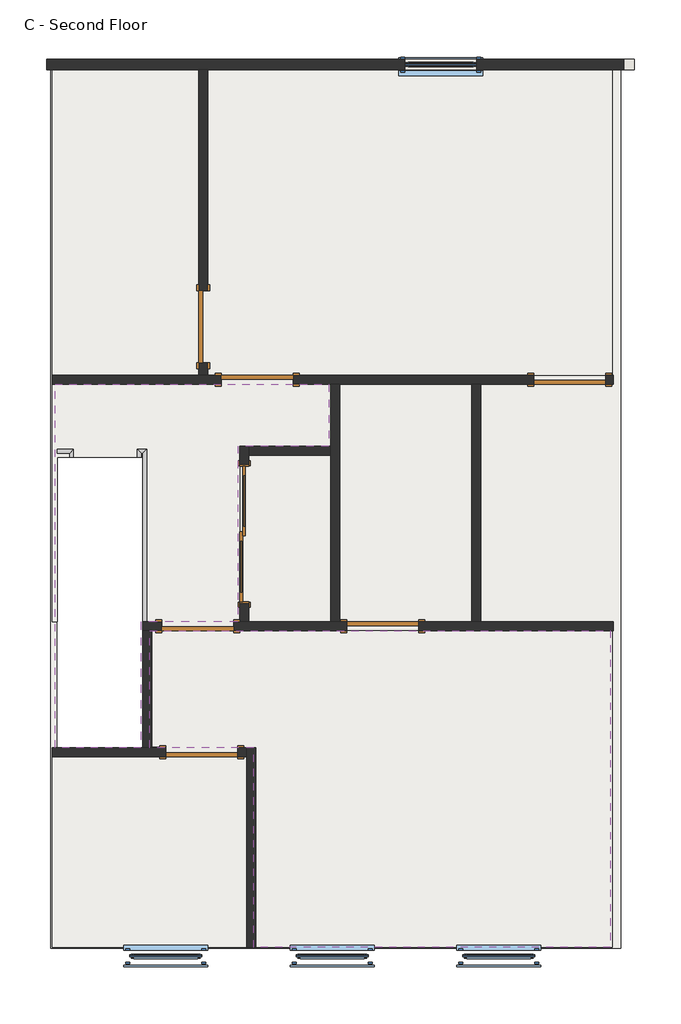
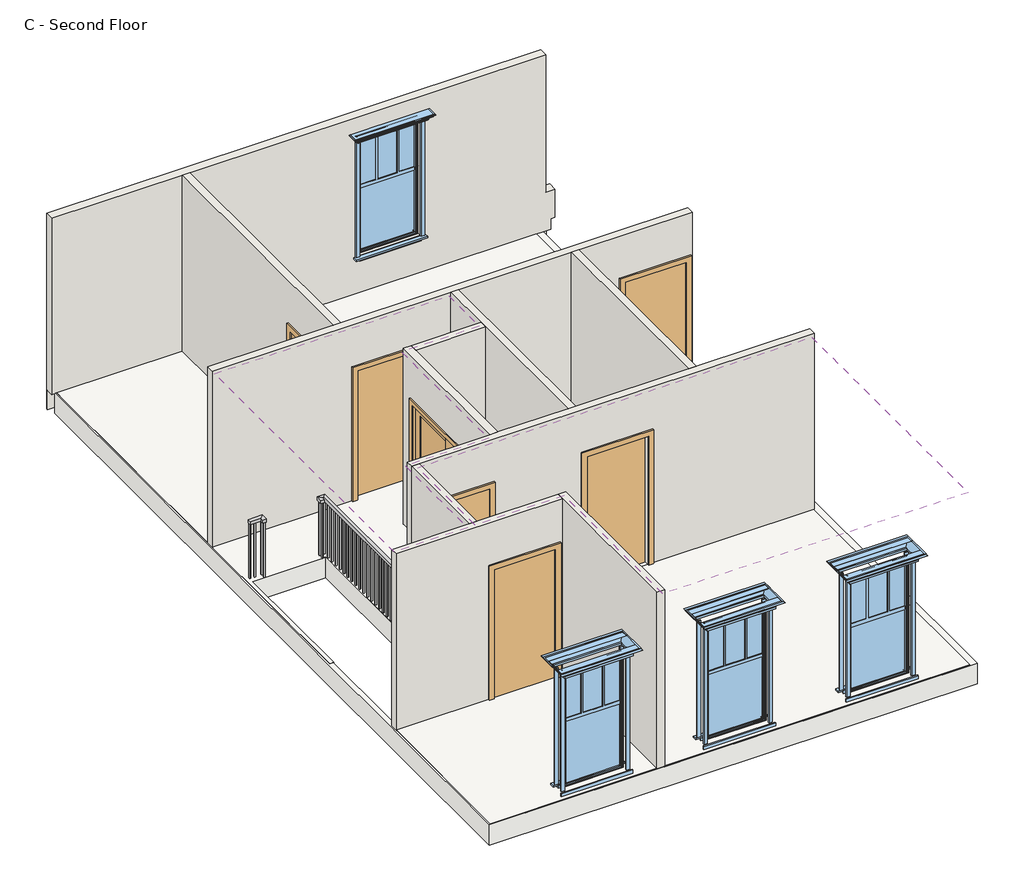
# One storey: 11 walls, 7 doors, 4 windows, 2 coverings, 2 railings, 2 slabs.
"""IFC4 building model written with IfcOpenShell, lengths in millimetres."""

from ifc_helpers import new_model, si_unit, frame, origin, place, context, project, spatial, polyline, outline, extrude, faceted_brep, transform, mapped, element, save
from components import door_2e073e5e, door_5e62189b, door_17d80c48, craftsman_style_single_window_l_craftsman_style_single_78b914de, craftsman_style_single_window_l_craftsman_style_single_4874115d

model = new_model("IFC4")

# Units and contexts
model_context = context("Model", 3, world=origin())
ifc_project = project(units=[si_unit("LENGTHUNIT", "METRE", prefix="MILLI")], contexts=[model_context])

# Site, building, storey
site = spatial("IfcSite", under=ifc_project)
building = spatial("IfcBuilding", under=site)
storey = spatial("IfcBuildingStorey", under=building, Name="C - Second Floor", Elevation=4591.05)

# Coverings
placement = place(None, origin())
element("IfcCovering", 1, ObjectType="GWB on Furring", at=placement, inside=storey, context=model_context, shape_type="SweptSolid", body=[
    extrude(outline(polyline([(10428.7620514, -3096.8539462), (10428.7620514, -7122.7539462), (5891.6870514, -7122.7539462), (5891.6870514, -4582.7539462), (4570.8870514, -4582.7539462), (4570.8870514, -3096.8539462), (10428.7620514, -3096.8539462)])), frame((0.0, 0.0, 7308.85), z_axis=(0.0, 0.0, 1.0), x_axis=(1.0, 0.0, 0.0)), (0.0, 0.0, 1.0), 31.75),
])
element("IfcCovering", 2, ObjectType="GWB on Furring", at=placement, inside=storey, context=model_context, shape_type="SweptSolid", body=[
    extrude(outline(polyline([(3364.3870514, -4582.7539462), (3364.3870514, 40.0460538), (6847.3620514, 40.0460538), (6847.3620514, -747.3539462), (5691.6620514, -747.3539462), (5691.6620514, -2982.5539462), (4456.5870514, -2982.5539462), (4456.5870514, -4582.7539462), (3364.3870514, -4582.7539462)])), frame((0.0, 0.0, 7308.85), z_axis=(0.0, 0.0, 1.0), x_axis=(1.0, 0.0, 0.0)), (0.0, 0.0, 1.0), 31.75),
])

# Doors
door_shape = door_2e073e5e(model_context)
element("IfcDoor", 3, ObjectType="Door-Interior-Double-Sliding-2_Panel-Wood : 68\" x 80\"", at=placement, inside=storey, context=model_context, shape_type="MappedRepresentation", body=[
    mapped(door_shape, transform((5771.0370514, -1864.9539462, 4591.05), x_axis=(0.0, 1.0, 0.0), y_axis=(-1.0, 0.0, 0.0), z_axis=(0.0, 0.0, 1.0))),
])
door_2_shape = door_5e62189b(model_context)
element("IfcDoor", 4, ObjectType="Single-Flush : 36\" x 80\"", at=placement, inside=storey, context=model_context, shape_type="MappedRepresentation", body=[
    mapped(door_2_shape, transform((5231.2870514, -4639.9039462, 4591.05), x_axis=(1.0, 0.0, 0.0), y_axis=(0.0, 1.0, 0.0), z_axis=(0.0, 0.0, 1.0))),
])
element("IfcDoor", 5, ObjectType="Single-Flush : 36\" x 80\"", at=placement, inside=storey, context=model_context, shape_type="MappedRepresentation", body=[
    mapped(door_2_shape, transform((5937.7245514, 97.1960538, 4591.05), x_axis=(-1.0, 0.0, 0.0), y_axis=(0.0, -1.0, 0.0), z_axis=(0.0, 0.0, 1.0))),
])
element("IfcDoor", 6, ObjectType="Single-Flush : 36\" x 80\"", at=placement, inside=storey, context=model_context, shape_type="MappedRepresentation", body=[
    mapped(door_2_shape, transform((5250.3370514, 770.2960538, 4591.05), x_axis=(0.0, -1.0, 0.0), y_axis=(1.0, 0.0, 0.0), z_axis=(0.0, 0.0, 1.0))),
])
element("IfcDoor", 7, ObjectType="Single-Flush : 36\" x 80\"", at=placement, inside=storey, context=model_context, shape_type="MappedRepresentation", body=[
    mapped(door_2_shape, transform((7533.1620514, -3039.7039462, 4591.05), x_axis=(-1.0, 0.0, 0.0), y_axis=(0.0, -1.0, 0.0), z_axis=(0.0, 0.0, 1.0))),
])
element("IfcDoor", 8, ObjectType="Single-Flush : 36\" x 80\"", at=placement, inside=storey, context=model_context, shape_type="MappedRepresentation", body=[
    mapped(door_2_shape, transform((9911.2370514, 97.1960538, 4591.05), x_axis=(1.0, 0.0, 0.0), y_axis=(0.0, 1.0, 0.0), z_axis=(0.0, 0.0, 1.0))),
])
door_3_shape = door_17d80c48(model_context)
element("IfcDoor", 9, ObjectType="Single-Flush : 36\" x 80\"", at=placement, inside=storey, context=model_context, shape_type="MappedRepresentation", body=[
    mapped(door_3_shape, transform((5180.4870514, -3039.7039462, 4591.05), x_axis=(-1.0, 0.0, 0.0), y_axis=(0.0, -1.0, 0.0), z_axis=(0.0, 0.0, 1.0))),
])

# Railings
element("IfcRailing", 10, ObjectType="Handrail - Rectangular", at=placement, inside=storey, context=model_context, shape_type="SolidModel", body=[
    faceted_brep([(3389.7870514, -836.2539462, 5505.45), (3389.7870514, -785.4539462, 5505.45), (3389.7870514, -785.4539462, 5454.65), (3389.7870514, -836.2539462, 5454.65), (3548.5370514, -836.2539462, 5454.65), (3548.5370514, -836.2539462, 5505.45), (3599.3370514, -785.4539462, 5454.65), (3599.3370514, -785.4539462, 5505.45), (3548.5370514, -887.0539462, 5505.45), (3548.5370514, -887.0539462, 5454.65), (3599.3370514, -887.0539462, 5454.65), (3599.3370514, -887.0539462, 5505.45)], [[[0, 1, 2, 3]], [[4, 5, 0, 3]], [[6, 4, 3, 2]], [[7, 6, 2, 1]], [[5, 7, 1, 0]], [[8, 9, 10, 11]], [[9, 8, 5, 4]], [[10, 9, 4, 6]], [[11, 10, 6, 7]], [[8, 11, 7, 5]]]),
    extrude(outline(polyline([(3481.8620514, -801.3289462), (3481.8620514, -820.3789462), (3462.8120514, -820.3789462), (3462.8120514, -801.3289462), (3481.8620514, -801.3289462)])), frame((0.0, 0.0, 4591.05), z_axis=(0.0, 0.0, 1.0), x_axis=(1.0, 0.0, 0.0)), (0.0, 0.0, 1.0), 863.6),
    extrude(outline(polyline([(3583.4620514, -820.3789462), (3564.4120514, -820.3789462), (3564.4120514, -801.3289462), (3583.4620514, -801.3289462), (3583.4620514, -820.3789462)])), frame((0.0, 0.0, 4591.05), z_axis=(0.0, 0.0, 1.0), x_axis=(1.0, 0.0, 0.0)), (0.0, 0.0, 1.0), 863.6),
    extrude(outline(polyline([(3408.8370514, -801.3289462), (3408.8370514, -820.3789462), (3389.7870514, -820.3789462), (3389.7870514, -801.3289462), (3408.8370514, -801.3289462)])), frame((0.0, 0.0, 4591.05), z_axis=(0.0, 0.0, 1.0), x_axis=(1.0, 0.0, 0.0)), (0.0, 0.0, 1.0), 863.6),
    extrude(outline(polyline([(3583.4620514, -887.0539462), (3564.4120514, -887.0539462), (3564.4120514, -868.0039462), (3583.4620514, -868.0039462), (3583.4620514, -887.0539462)])), frame((0.0, 0.0, 4591.05), z_axis=(0.0, 0.0, 1.0), x_axis=(1.0, 0.0, 0.0)), (0.0, 0.0, 1.0), 863.6),
])
element("IfcRailing", 11, ObjectType="Handrail - Rectangular", at=placement, inside=storey, context=model_context, shape_type="SolidModel", body=[
    faceted_brep([(4412.1370514, -887.0539462, 5505.45), (4412.1370514, -887.0539462, 5454.65), (4462.9370514, -887.0539462, 5454.65), (4462.9370514, -887.0539462, 5505.45), (4412.1370514, -785.4539462, 5505.45), (4412.1370514, -785.4539462, 5454.65), (4462.9370514, -836.2539462, 5454.65), (4462.9370514, -836.2539462, 5505.45), (4530.3368362, -2982.5539462, 5505.45), (4479.5368362, -2982.5539462, 5505.45), (4479.5368362, -2982.5539462, 5454.65), (4530.3368362, -2982.5539462, 5454.65), (4530.3368362, -785.4539462, 5454.65), (4530.3368362, -785.4539462, 5505.45), (4479.5368362, -836.2539462, 5454.65), (4479.5368362, -836.2539462, 5505.45)], [[[0, 1, 2, 3]], [[1, 0, 4, 5]], [[2, 1, 5, 6]], [[3, 2, 6, 7]], [[0, 3, 7, 4]], [[8, 9, 10, 11]], [[12, 13, 8, 11]], [[14, 12, 11, 10]], [[15, 14, 10, 9]], [[13, 15, 9, 8]], [[5, 4, 13, 12]], [[6, 5, 12, 14]], [[7, 6, 14, 15]], [[4, 7, 15, 13]]]),
    extrude(outline(polyline([(4495.4118362, -2934.9289462), (4514.4618362, -2934.9289462), (4514.4618362, -2953.9789462), (4495.4118362, -2953.9789462), (4495.4118362, -2934.9289462)])), frame((0.0, 0.0, 4591.05), z_axis=(0.0, 0.0, 1.0), x_axis=(1.0, 0.0, 0.0)), (0.0, 0.0, 1.0), 863.6),
    extrude(outline(polyline([(4495.4118362, -2833.3289462), (4514.4618362, -2833.3289462), (4514.4618362, -2852.3789462), (4495.4118362, -2852.3789462), (4495.4118362, -2833.3289462)])), frame((0.0, 0.0, 4591.05), z_axis=(0.0, 0.0, 1.0), x_axis=(1.0, 0.0, 0.0)), (0.0, 0.0, 1.0), 863.6),
    extrude(outline(polyline([(4495.4118362, -2731.7289462), (4514.4618362, -2731.7289462), (4514.4618362, -2750.7789462), (4495.4118362, -2750.7789462), (4495.4118362, -2731.7289462)])), frame((0.0, 0.0, 4591.05), z_axis=(0.0, 0.0, 1.0), x_axis=(1.0, 0.0, 0.0)), (0.0, 0.0, 1.0), 863.6),
    extrude(outline(polyline([(4495.4118362, -2630.1289462), (4514.4618362, -2630.1289462), (4514.4618362, -2649.1789462), (4495.4118362, -2649.1789462), (4495.4118362, -2630.1289462)])), frame((0.0, 0.0, 4591.05), z_axis=(0.0, 0.0, 1.0), x_axis=(1.0, 0.0, 0.0)), (0.0, 0.0, 1.0), 863.6),
    extrude(outline(polyline([(4495.4118362, -2528.5289462), (4514.4618362, -2528.5289462), (4514.4618362, -2547.5789462), (4495.4118362, -2547.5789462), (4495.4118362, -2528.5289462)])), frame((0.0, 0.0, 4591.05), z_axis=(0.0, 0.0, 1.0), x_axis=(1.0, 0.0, 0.0)), (0.0, 0.0, 1.0), 863.6),
    extrude(outline(polyline([(4495.4118362, -2426.9289462), (4514.4618362, -2426.9289462), (4514.4618362, -2445.9789462), (4495.4118362, -2445.9789462), (4495.4118362, -2426.9289462)])), frame((0.0, 0.0, 4591.05), z_axis=(0.0, 0.0, 1.0), x_axis=(1.0, 0.0, 0.0)), (0.0, 0.0, 1.0), 863.6),
    extrude(outline(polyline([(4495.4118362, -2325.3289462), (4514.4618362, -2325.3289462), (4514.4618362, -2344.3789462), (4495.4118362, -2344.3789462), (4495.4118362, -2325.3289462)])), frame((0.0, 0.0, 4591.05), z_axis=(0.0, 0.0, 1.0), x_axis=(1.0, 0.0, 0.0)), (0.0, 0.0, 1.0), 863.6),
    extrude(outline(polyline([(4495.4118362, -2223.7289462), (4514.4618362, -2223.7289462), (4514.4618362, -2242.7789462), (4495.4118362, -2242.7789462), (4495.4118362, -2223.7289462)])), frame((0.0, 0.0, 4591.05), z_axis=(0.0, 0.0, 1.0), x_axis=(1.0, 0.0, 0.0)), (0.0, 0.0, 1.0), 863.6),
    extrude(outline(polyline([(4495.4118362, -2122.1289462), (4514.4618362, -2122.1289462), (4514.4618362, -2141.1789462), (4495.4118362, -2141.1789462), (4495.4118362, -2122.1289462)])), frame((0.0, 0.0, 4591.05), z_axis=(0.0, 0.0, 1.0), x_axis=(1.0, 0.0, 0.0)), (0.0, 0.0, 1.0), 863.6),
    extrude(outline(polyline([(4495.4118362, -2020.5289462), (4514.4618362, -2020.5289462), (4514.4618362, -2039.5789462), (4495.4118362, -2039.5789462), (4495.4118362, -2020.5289462)])), frame((0.0, 0.0, 4591.05), z_axis=(0.0, 0.0, 1.0), x_axis=(1.0, 0.0, 0.0)), (0.0, 0.0, 1.0), 863.6),
    extrude(outline(polyline([(4495.4118362, -1918.9289462), (4514.4618362, -1918.9289462), (4514.4618362, -1937.9789462), (4495.4118362, -1937.9789462), (4495.4118362, -1918.9289462)])), frame((0.0, 0.0, 4591.05), z_axis=(0.0, 0.0, 1.0), x_axis=(1.0, 0.0, 0.0)), (0.0, 0.0, 1.0), 863.6),
    extrude(outline(polyline([(4495.4118362, -1817.3289462), (4514.4618362, -1817.3289462), (4514.4618362, -1836.3789462), (4495.4118362, -1836.3789462), (4495.4118362, -1817.3289462)])), frame((0.0, 0.0, 4591.05), z_axis=(0.0, 0.0, 1.0), x_axis=(1.0, 0.0, 0.0)), (0.0, 0.0, 1.0), 863.6),
    extrude(outline(polyline([(4495.4118362, -1715.7289462), (4514.4618362, -1715.7289462), (4514.4618362, -1734.7789462), (4495.4118362, -1734.7789462), (4495.4118362, -1715.7289462)])), frame((0.0, 0.0, 4591.05), z_axis=(0.0, 0.0, 1.0), x_axis=(1.0, 0.0, 0.0)), (0.0, 0.0, 1.0), 863.6),
    extrude(outline(polyline([(4495.4118362, -1614.1289462), (4514.4618362, -1614.1289462), (4514.4618362, -1633.1789462), (4495.4118362, -1633.1789462), (4495.4118362, -1614.1289462)])), frame((0.0, 0.0, 4591.05), z_axis=(0.0, 0.0, 1.0), x_axis=(1.0, 0.0, 0.0)), (0.0, 0.0, 1.0), 863.6),
    extrude(outline(polyline([(4495.4118362, -1512.5289462), (4514.4618362, -1512.5289462), (4514.4618362, -1531.5789462), (4495.4118362, -1531.5789462), (4495.4118362, -1512.5289462)])), frame((0.0, 0.0, 4591.05), z_axis=(0.0, 0.0, 1.0), x_axis=(1.0, 0.0, 0.0)), (0.0, 0.0, 1.0), 863.6),
    extrude(outline(polyline([(4495.4118362, -1410.9289462), (4514.4618362, -1410.9289462), (4514.4618362, -1429.9789462), (4495.4118362, -1429.9789462), (4495.4118362, -1410.9289462)])), frame((0.0, 0.0, 4591.05), z_axis=(0.0, 0.0, 1.0), x_axis=(1.0, 0.0, 0.0)), (0.0, 0.0, 1.0), 863.6),
    extrude(outline(polyline([(4495.4118362, -1309.3289462), (4514.4618362, -1309.3289462), (4514.4618362, -1328.3789462), (4495.4118362, -1328.3789462), (4495.4118362, -1309.3289462)])), frame((0.0, 0.0, 4591.05), z_axis=(0.0, 0.0, 1.0), x_axis=(1.0, 0.0, 0.0)), (0.0, 0.0, 1.0), 863.6),
    extrude(outline(polyline([(4495.4118362, -1207.7289462), (4514.4618362, -1207.7289462), (4514.4618362, -1226.7789462), (4495.4118362, -1226.7789462), (4495.4118362, -1207.7289462)])), frame((0.0, 0.0, 4591.05), z_axis=(0.0, 0.0, 1.0), x_axis=(1.0, 0.0, 0.0)), (0.0, 0.0, 1.0), 863.6),
    extrude(outline(polyline([(4495.4118362, -1106.1289462), (4514.4618362, -1106.1289462), (4514.4618362, -1125.1789462), (4495.4118362, -1125.1789462), (4495.4118362, -1106.1289462)])), frame((0.0, 0.0, 4591.05), z_axis=(0.0, 0.0, 1.0), x_axis=(1.0, 0.0, 0.0)), (0.0, 0.0, 1.0), 863.6),
    extrude(outline(polyline([(4495.4118362, -1004.5289462), (4514.4618362, -1004.5289462), (4514.4618362, -1023.5789462), (4495.4118362, -1023.5789462), (4495.4118362, -1004.5289462)])), frame((0.0, 0.0, 4591.05), z_axis=(0.0, 0.0, 1.0), x_axis=(1.0, 0.0, 0.0)), (0.0, 0.0, 1.0), 863.6),
    extrude(outline(polyline([(4495.4118362, -902.9289462), (4514.4618362, -902.9289462), (4514.4618362, -921.9789462), (4495.4118362, -921.9789462), (4495.4118362, -902.9289462)])), frame((0.0, 0.0, 4591.05), z_axis=(0.0, 0.0, 1.0), x_axis=(1.0, 0.0, 0.0)), (0.0, 0.0, 1.0), 863.6),
    extrude(outline(polyline([(4495.4118362, -820.3789462), (4495.4118362, -801.3289462), (4514.4618362, -801.3289462), (4514.4618362, -820.3789462), (4495.4118362, -820.3789462)])), frame((0.0, 0.0, 4591.05), z_axis=(0.0, 0.0, 1.0), x_axis=(1.0, 0.0, 0.0)), (0.0, 0.0, 1.0), 863.6),
    extrude(outline(polyline([(4447.0620514, -820.3789462), (4428.0120514, -820.3789462), (4428.0120514, -801.3289462), (4447.0620514, -801.3289462), (4447.0620514, -820.3789462)])), frame((0.0, 0.0, 4591.05), z_axis=(0.0, 0.0, 1.0), x_axis=(1.0, 0.0, 0.0)), (0.0, 0.0, 1.0), 863.6),
    extrude(outline(polyline([(4495.4118362, -2963.5039462), (4514.4618362, -2963.5039462), (4514.4618362, -2982.5539462), (4495.4118362, -2982.5539462), (4495.4118362, -2963.5039462)])), frame((0.0, 0.0, 4591.05), z_axis=(0.0, 0.0, 1.0), x_axis=(1.0, 0.0, 0.0)), (0.0, 0.0, 1.0), 863.6),
    extrude(outline(polyline([(4447.0620514, -887.0539462), (4428.0120514, -887.0539462), (4428.0120514, -868.0039462), (4447.0620514, -868.0039462), (4447.0620514, -887.0539462)])), frame((0.0, 0.0, 4591.05), z_axis=(0.0, 0.0, 1.0), x_axis=(1.0, 0.0, 0.0)), (0.0, 0.0, 1.0), 863.6),
])

# Slabs
element("IfcSlab", 12, ObjectType="Wood Truss  Joist 12\"", at=placement, inside=storey, context=model_context, shape_type="SweptSolid", body=[
    extrude(outline(polyline([(3307.2370514, 4053.2460538), (10558.9370514, 4053.2460538), (10558.9370514, -7135.4539462), (3307.2370514, -7135.4539462), (3307.2370514, 4053.2460538)]), holes=[polyline([(3389.7870514, -4582.7539462), (4481.9870514, -4582.7539462), (4481.9870514, -887.0539462), (3389.7870514, -887.0539462), (3389.7870514, -4582.7539462)])]), frame((0.0, 0.0, 4270.375), z_axis=(0.0, 0.0, 1.0), x_axis=(1.0, 0.0, 0.0)), (0.0, 0.0, 1.0), 320.675),
])
element("IfcSlab", 13, ObjectType="Carpet Finish - 1/8\"", at=placement, inside=storey, context=model_context, shape_type="SweptSolid", body=[
    extrude(outline(polyline([(3329.4620514, -4697.0539462), (4772.3955954, -4697.0539462), (4772.3955954, -4570.0539462), (4596.2870514, -4570.0539462), (4596.2870514, -3096.8539462), (4723.2870514, -3096.8539462), (4723.2870514, -2982.5539462), (4481.9870514, -2982.5539462), (4481.9870514, -887.0539462), (3389.7870514, -887.0539462), (3389.7870514, -2982.5539462), (3329.4620514, -2982.5539462), (3329.4620514, 40.0460538), (5480.5245514, 40.0460538), (5480.5245514, 154.3460538), (5307.4870514, 154.3460538), (5307.4870514, 313.0960538), (5193.1870514, 313.0960538), (5193.1870514, 154.3460538), (3329.4620514, 154.3460538), (3329.4620514, 4040.5460538), (5193.1870514, 4040.5460538), (5193.1870514, 1229.1875098), (5307.4870514, 1229.1875098), (5307.4870514, 4040.5460538), (10454.1620514, 4040.5460538), (10454.1620514, 154.3460538), (10368.4370514, 154.3460538), (9454.0370514, 154.3460538), (6394.9245514, 154.3460538), (6394.9245514, 40.0460538), (6872.7620514, 40.0460538), (6872.7620514, -747.3539462), (5717.0620514, -747.3539462), (5717.0620514, -2982.5539462), (5637.6870514, -2982.5539462), (5637.6870514, -3096.8539462), (6771.1620514, -3096.8539462), (7685.5620514, -3096.8539462), (10454.1620514, -3096.8539462), (10454.1620514, -7122.7539462), (5917.0870514, -7122.7539462), (5917.0870514, -4582.7539462), (5688.4870514, -4582.7539462), (5688.4870514, -4697.0539462), (5802.7870514, -4697.0539462), (5802.7870514, -7122.7539462), (3329.4620514, -7122.7539462), (3329.4620514, -4697.0539462)])), frame((0.0, 0.0, 4591.05), z_axis=(0.0, 0.0, 1.0), x_axis=(1.0, 0.0, 0.0)), (0.0, 0.0, 1.0), 3.175),
])

# Walls
element("IfcWall", 14, ObjectType="Exterior - Wood Siding on Wood Stud", at=placement, inside=storey, context=model_context, shape_type="Brep", body=[
    faceted_brep([(10670.0620514, 4173.8960538, 4286.25), (3256.4370514, 4173.8960538, 4286.25), (3256.4370514, 4173.8960538, 4591.05), (3256.4370514, 4173.8960538, 6750.05), (3256.4370514, 4173.8960538, 7359.65), (10597.0370514, 4173.8960538, 7359.65), (10597.0370514, 4173.8960538, 5200.65), (10730.3870514, 4173.8960538, 5200.65), (10730.3870514, 4173.8960538, 4756.15), (10670.0620514, 4173.8960538, 4756.15), (8728.3277665, 4173.8960538, 7004.05), (7813.9277665, 4173.8960538, 7004.05), (7813.9277665, 4173.8960538, 5175.25), (8728.3277665, 4173.8960538, 5175.25), (10670.0620514, 4040.5460538, 4591.05), (10670.0620514, 4040.5460538, 4756.15), (10730.3870514, 4040.5460538, 4756.15), (10730.3870514, 4040.5460538, 5200.65), (10597.0370514, 4040.5460538, 5200.65), (10597.0370514, 4040.5460538, 7359.65), (5307.4870514, 4040.5460538, 7359.65), (5193.1870514, 4040.5460538, 7359.65), (3256.4370514, 4040.5460538, 7359.65), (3256.4370514, 4040.5460538, 6815.1375), (3256.4370514, 4040.5460538, 6750.05), (3256.4370514, 4040.5460538, 4591.05), (3329.4620514, 4040.5460538, 4591.05), (5193.1870514, 4040.5460538, 4591.05), (5307.4870514, 4040.5460538, 4591.05), (8728.3277665, 4040.5460538, 7004.05), (8728.3277665, 4040.5460538, 5175.25), (7813.9277665, 4040.5460538, 5175.25), (7813.9277665, 4040.5460538, 7004.05), (3256.4370514, 4154.8460538, 4286.25), (3256.4370514, 4154.8460538, 4591.05), (10597.0370514, 4154.8460538, 5200.65), (10670.0620514, 4154.8460538, 4591.05), (10670.0620514, 4154.8460538, 4286.25)], [[[0, 1, 2, 3, 4, 5, 6, 7, 8, 9], [10, 11, 12, 13]], [[14, 15, 16, 17, 18, 19, 20, 21, 22, 23, 24, 25, 26, 27, 28], [29, 30, 31, 32]], [[5, 4, 22, 21, 20, 19]], [[1, 33, 34, 25, 24, 23, 22, 4, 3, 2]], [[8, 16, 15, 9]], [[6, 35, 18, 17, 7]], [[0, 9, 15, 14, 36, 37]], [[36, 14, 28, 27, 26, 25, 34]], [[33, 37, 36, 34]], [[1, 0, 37, 33]], [[5, 19, 18, 35, 6]], [[8, 7, 17, 16]], [[30, 29, 10, 13]], [[31, 30, 13, 12]], [[32, 31, 12, 11]], [[29, 32, 11, 10]]]),
])
element("IfcWall", 15, ObjectType="Interior - 4 1/2\" Partition", at=placement, inside=storey, context=model_context, shape_type="Brep", body=[
    faceted_brep([(5637.6870514, -3096.8539462, 4591.05), (7075.9620514, -3096.8539462, 4591.05), (7075.9620514, -3096.8539462, 6623.05), (7990.3620514, -3096.8539462, 6623.05), (7990.3620514, -3096.8539462, 4591.05), (10463.6870514, -3096.8539462, 4591.05), (10463.6870514, -3096.8539462, 7359.65), (4596.2870514, -3096.8539462, 7359.65), (4481.9870514, -3096.8539462, 7359.65), (4481.9870514, -3096.8539462, 4591.05), (4596.2870514, -3096.8539462, 4591.05), (4723.2870514, -3096.8539462, 4591.05), (4723.2870514, -3096.8539462, 6623.05), (5637.6870514, -3096.8539462, 6623.05), (7075.9620514, -2982.5539462, 6623.05), (7075.9620514, -2982.5539462, 4591.05), (6987.0620514, -2982.5539462, 4591.05), (6872.7620514, -2982.5539462, 4591.05), (5831.3620514, -2982.5539462, 4591.05), (5717.0620514, -2982.5539462, 4591.05), (5637.6870514, -2982.5539462, 4591.05), (5637.6870514, -2982.5539462, 6623.05), (4723.2870514, -2982.5539462, 6623.05), (4723.2870514, -2982.5539462, 4591.05), (4481.9870514, -2982.5539462, 4591.05), (4481.9870514, -2982.5539462, 7359.65), (5717.0620514, -2982.5539462, 7359.65), (5831.3620514, -2982.5539462, 7359.65), (6872.7620514, -2982.5539462, 7359.65), (6987.0620514, -2982.5539462, 7359.65), (8663.4620514, -2982.5539462, 7359.65), (8777.7620514, -2982.5539462, 7359.65), (10463.6870514, -2982.5539462, 7359.65), (10463.6870514, -2982.5539462, 4591.05), (8777.7620514, -2982.5539462, 4591.05), (8663.4620514, -2982.5539462, 4591.05), (7990.3620514, -2982.5539462, 4591.05), (7990.3620514, -2982.5539462, 6623.05)], [[[0, 1, 2, 3, 4, 5, 6, 7, 8, 9, 10, 11, 12, 13]], [[14, 15, 16, 17, 18, 19, 20, 21, 22, 23, 24, 25, 26, 27, 28, 29, 30, 31, 32, 33, 34, 35, 36, 37]], [[24, 23, 11, 10, 9]], [[36, 35, 34, 33, 5, 4]], [[20, 19, 18, 17, 16, 15, 1, 0]], [[8, 7, 6, 32, 31, 30, 29, 28, 27, 26, 25]], [[12, 11, 23, 22]], [[13, 12, 22, 21]], [[0, 13, 21, 20]], [[2, 1, 15, 14]], [[3, 2, 14, 37]], [[4, 3, 37, 36]], [[9, 8, 25, 24]], [[6, 5, 33, 32]]]),
])
element("IfcWall", 16, ObjectType="Interior - 4 1/2\" Partition", at=placement, inside=storey, context=model_context, shape_type="Brep", body=[
    faceted_brep([(10463.6870514, 154.3460538, 4591.05), (10368.4370514, 154.3460538, 4591.05), (10368.4370514, 154.3460538, 6623.05), (9454.0370514, 154.3460538, 6623.05), (9454.0370514, 154.3460538, 4591.05), (6394.9245514, 154.3460538, 4591.05), (6394.9245514, 154.3460538, 6623.05), (5480.5245514, 154.3460538, 6623.05), (5480.5245514, 154.3460538, 4591.05), (5307.4870514, 154.3460538, 4591.05), (5193.1870514, 154.3460538, 4591.05), (3329.4620514, 154.3460538, 4591.05), (3329.4620514, 154.3460538, 7359.65), (5193.1870514, 154.3460538, 7359.65), (5307.4870514, 154.3460538, 7359.65), (10463.6870514, 154.3460538, 7359.65), (10368.4370514, 40.0460538, 6623.05), (10368.4370514, 40.0460538, 4591.05), (10463.6870514, 40.0460538, 4591.05), (10463.6870514, 40.0460538, 7359.65), (8777.7620514, 40.0460538, 7359.65), (8663.4620514, 40.0460538, 7359.65), (6987.0620514, 40.0460538, 7359.65), (6872.7620514, 40.0460538, 7359.65), (3329.4620514, 40.0460538, 7359.65), (3329.4620514, 40.0460538, 4591.05), (5480.5245514, 40.0460538, 4591.05), (5480.5245514, 40.0460538, 6623.05), (6394.9245514, 40.0460538, 6623.05), (6394.9245514, 40.0460538, 4591.05), (6872.7620514, 40.0460538, 4591.05), (6987.0620514, 40.0460538, 4591.05), (8663.4620514, 40.0460538, 4591.05), (8777.7620514, 40.0460538, 4591.05), (9454.0370514, 40.0460538, 4591.05), (9454.0370514, 40.0460538, 6623.05)], [[[0, 1, 2, 3, 4, 5, 6, 7, 8, 9, 10, 11, 12, 13, 14, 15]], [[16, 17, 18, 19, 20, 21, 22, 23, 24, 25, 26, 27, 28, 29, 30, 31, 32, 33, 34, 35]], [[11, 10, 9, 8, 26, 25]], [[18, 17, 1, 0]], [[34, 33, 32, 31, 30, 29, 5, 4]], [[15, 14, 13, 12, 24, 23, 22, 21, 20, 19]], [[27, 26, 8, 7]], [[28, 27, 7, 6]], [[29, 28, 6, 5]], [[2, 1, 17, 16]], [[3, 2, 16, 35]], [[4, 3, 35, 34]], [[12, 11, 25, 24]], [[0, 15, 19, 18]]]),
])
element("IfcWall", 17, ObjectType="Interior - 4 1/2\" Partition", at=placement, inside=storey, context=model_context, shape_type="SweptSolid", body=[
    extrude(outline(polyline([(313.0960538, 6623.05), (313.0960538, 4591.05), (154.3460538, 4591.05), (154.3460538, 7359.65), (4040.5460538, 7359.65), (4040.5460538, 4591.05), (1227.4960538, 4591.05), (1227.4960538, 6623.05), (313.0960538, 6623.05)])), frame((5193.1870514, 0.0, 0.0), z_axis=(1.0, 0.0, 0.0), x_axis=(0.0, 1.0, 0.0)), (0.0, 0.0, 1.0), 114.3),
])
element("IfcWall", 18, ObjectType="Interior - 4 1/2\" Partition", at=placement, inside=storey, context=model_context, shape_type="SweptSolid", body=[
    extrude(outline(polyline([(8663.4620514, -2982.5539462), (8663.4620514, 40.0460538), (8777.7620514, 40.0460538), (8777.7620514, -2982.5539462), (8663.4620514, -2982.5539462)])), frame((0.0, 0.0, 4591.05), z_axis=(0.0, 0.0, 1.0), x_axis=(1.0, 0.0, 0.0)), (0.0, 0.0, 1.0), 2768.6),
])
element("IfcWall", 19, ObjectType="Interior - 4 1/2\" Partition", at=placement, inside=storey, context=model_context, shape_type="Brep", body=[
    faceted_brep([(6872.7620514, 40.0460538, 4591.05), (6872.7620514, -747.3539462, 4591.05), (6872.7620514, -861.6539462, 4591.05), (6872.7620514, -2982.5539462, 4591.05), (6872.7620514, -2982.5539462, 7359.65), (6872.7620514, -861.6539462, 7359.65), (6872.7620514, -747.3539462, 7359.65), (6872.7620514, 40.0460538, 7359.65), (6987.0620514, 40.0460538, 4591.05), (6987.0620514, 40.0460538, 7359.65), (6987.0620514, -2982.5539462, 7359.65), (6987.0620514, -2982.5539462, 4591.05)], [[[0, 1, 2, 3, 4, 5, 6, 7]], [[8, 9, 10, 11]], [[3, 2, 1, 0, 8, 11]], [[7, 6, 5, 4, 10, 9]], [[4, 3, 11, 10]], [[0, 7, 9, 8]]]),
])
element("IfcWall", 20, ObjectType="Interior - 4 1/2\" Partition", at=placement, inside=storey, context=model_context, shape_type="Brep", body=[
    faceted_brep([(5831.3620514, -747.3539462, 7359.65), (5831.3620514, -861.6539462, 7359.65), (5831.3620514, -2982.5539462, 7359.65), (5831.3620514, -2982.5539462, 4591.05), (5831.3620514, -2753.9539462, 4591.05), (5831.3620514, -2753.9539462, 6648.45), (5831.3620514, -975.9539462, 6648.45), (5831.3620514, -975.9539462, 4591.05), (5831.3620514, -861.6539462, 4591.05), (5831.3620514, -747.3539462, 4591.05), (5717.0620514, -2982.5539462, 7359.65), (5717.0620514, -747.3539462, 7359.65), (5717.0620514, -747.3539462, 4591.05), (5717.0620514, -975.9539462, 4591.05), (5717.0620514, -975.9539462, 6648.45), (5717.0620514, -2753.9539462, 6648.45), (5717.0620514, -2753.9539462, 4591.05), (5717.0620514, -2982.5539462, 4591.05)], [[[0, 1, 2, 3, 4, 5, 6, 7, 8, 9]], [[10, 11, 12, 13, 14, 15, 16, 17]], [[3, 17, 16, 4]], [[12, 9, 8, 7, 13]], [[2, 1, 0, 11, 10]], [[3, 2, 10, 17]], [[0, 9, 12, 11]], [[6, 14, 13, 7]], [[14, 6, 5, 15]], [[15, 5, 4, 16]]]),
])
element("IfcWall", 21, ObjectType="Interior - 4 1/2\" Partition", at=placement, inside=storey, context=model_context, shape_type="SweptSolid", body=[
    extrude(outline(polyline([(6872.7620514, -861.6539462), (5831.3620514, -861.6539462), (5831.3620514, -747.3539462), (6872.7620514, -747.3539462), (6872.7620514, -861.6539462)])), frame((0.0, 0.0, 4591.05), z_axis=(0.0, 0.0, 1.0), x_axis=(1.0, 0.0, 0.0)), (0.0, 0.0, 1.0), 2768.6),
])
element("IfcWall", 22, ObjectType="Interior - 4 1/2\" Partition", at=placement, inside=storey, context=model_context, shape_type="Brep", body=[
    faceted_brep([(5917.0870514, -7122.7539462, 4591.05), (5917.0870514, -4582.7539462, 4591.05), (5917.0870514, -4582.7539462, 7359.65), (5917.0870514, -7122.7539462, 7359.65), (5802.7870514, -7122.7539462, 4591.05), (5802.7870514, -7122.7539462, 7359.65), (5802.7870514, -4697.0539462, 7359.65), (5802.7870514, -4582.7539462, 7359.65), (5802.7870514, -4582.7539462, 4591.05), (5802.7870514, -4697.0539462, 4591.05)], [[[0, 1, 2, 3]], [[4, 5, 6, 7, 8, 9]], [[1, 0, 4, 9, 8]], [[3, 2, 7, 6, 5]], [[2, 1, 8, 7]], [[0, 3, 5, 4]]]),
])
element("IfcWall", 23, ObjectType="Interior - 4 1/2\" Partition", at=placement, inside=storey, context=model_context, shape_type="Brep", body=[
    faceted_brep([(5802.7870514, -4582.7539462, 4591.05), (5688.4870514, -4582.7539462, 4591.05), (5688.4870514, -4582.7539462, 6623.05), (4774.0870514, -4582.7539462, 6623.05), (4774.0870514, -4582.7539462, 4591.05), (4596.2870514, -4582.7539462, 4591.05), (4481.9870514, -4582.7539462, 4591.05), (3329.4620514, -4582.7539462, 4591.05), (3329.4620514, -4582.7539462, 7359.65), (4481.9870514, -4582.7539462, 7359.65), (4596.2870514, -4582.7539462, 7359.65), (5802.7870514, -4582.7539462, 7359.65), (5688.4870514, -4697.0539462, 6623.05), (5688.4870514, -4697.0539462, 4591.05), (5802.7870514, -4697.0539462, 4591.05), (5802.7870514, -4697.0539462, 7359.65), (3329.4620514, -4697.0539462, 7359.65), (3329.4620514, -4697.0539462, 4591.05), (4774.0870514, -4697.0539462, 4591.05), (4774.0870514, -4697.0539462, 6623.05)], [[[0, 1, 2, 3, 4, 5, 6, 7, 8, 9, 10, 11]], [[12, 13, 14, 15, 16, 17, 18, 19]], [[18, 17, 7, 6, 5, 4]], [[14, 13, 1, 0]], [[11, 10, 9, 8, 16, 15]], [[0, 11, 15, 14]], [[2, 1, 13, 12]], [[3, 2, 12, 19]], [[4, 3, 19, 18]], [[8, 7, 17, 16]]]),
])
element("IfcWall", 24, ObjectType="Interior - 4 1/2\" Partition", at=placement, inside=storey, context=model_context, shape_type="SweptSolid", body=[
    extrude(outline(polyline([(4596.2870514, -3096.8539462), (4596.2870514, -4582.7539462), (4481.9870514, -4582.7539462), (4481.9870514, -3096.8539462), (4596.2870514, -3096.8539462)])), frame((0.0, 0.0, 4591.05), z_axis=(0.0, 0.0, 1.0), x_axis=(1.0, 0.0, 0.0)), (0.0, 0.0, 1.0), 2768.6),
])

# Windows
craftsman_style_single_window_l_craftsman_style_single_shape = craftsman_style_single_window_l_craftsman_style_single_78b914de(model_context)
element("IfcWindow", 25, ObjectType="Craftsman_Style_Single_Window_L : Craftsman_Style_Single_Window_L", at=placement, inside=storey, context=model_context, shape_type="MappedRepresentation", body=[
    mapped(craftsman_style_single_window_l_craftsman_style_single_shape, transform((8271.1277665, 4107.2210538, 4260.85), x_axis=(1.0, 0.0, 0.0), y_axis=(0.0, 1.0, 0.0), z_axis=(0.0, 0.0, 1.0))),
])
craftsman_style_single_window_l_craftsman_style_single_2_shape = craftsman_style_single_window_l_craftsman_style_single_4874115d(model_context)
element("IfcWindow", 26, ObjectType="Craftsman_Style_Single_Window_L : Craftsman_Style_Single_Window_L", at=placement, inside=storey, context=model_context, shape_type="MappedRepresentation", body=[
    mapped(craftsman_style_single_window_l_craftsman_style_single_2_shape, transform((9008.632409, -7238.6414462, 3981.45), x_axis=(-1.0, 0.0, 0.0), y_axis=(0.0, -1.0, 0.0), z_axis=(0.0, 0.0, 1.0))),
])
element("IfcWindow", 27, ObjectType="Craftsman_Style_Single_Window_L : Craftsman_Style_Single_Window_L", at=placement, inside=storey, context=model_context, shape_type="MappedRepresentation", body=[
    mapped(craftsman_style_single_window_l_craftsman_style_single_2_shape, transform((4771.373124, -7238.6414462, 3981.45), x_axis=(-1.0, 0.0, 0.0), y_axis=(0.0, -1.0, 0.0), z_axis=(0.0, 0.0, 1.0))),
])
element("IfcWindow", 28, ObjectType="Craftsman_Style_Single_Window_L : Craftsman_Style_Single_Window_L", at=placement, inside=storey, context=model_context, shape_type="MappedRepresentation", body=[
    mapped(craftsman_style_single_window_l_craftsman_style_single_2_shape, transform((6890.0027665, -7238.6414462, 3981.45), x_axis=(-1.0, 0.0, 0.0), y_axis=(0.0, -1.0, 0.0), z_axis=(0.0, 0.0, 1.0))),
])

save(model, "model.ifc")
